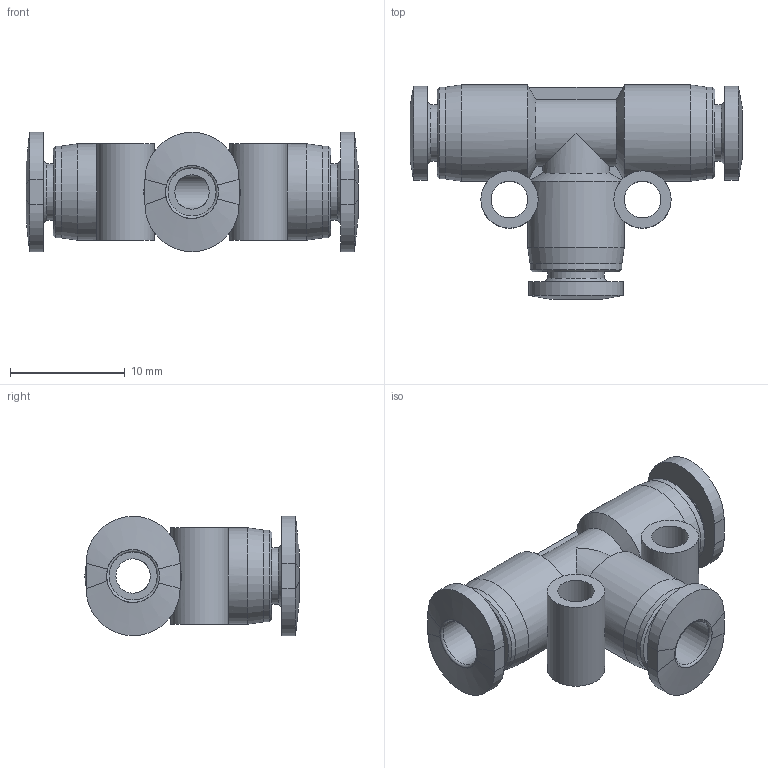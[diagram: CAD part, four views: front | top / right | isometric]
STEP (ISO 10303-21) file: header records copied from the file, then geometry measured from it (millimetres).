
FILE_DESCRIPTION((''),'2;1');
FILE_NAME('D:\INVENTOR\[New Inventor]\CDC Products 3D Ass''y\Compact\Metric\PUT-C\PUT04C.stp','2009-02-10T16:29:54',('Microsoft'),(''),'Autodesk Inventor 2008','Autodesk Inventor 2008','');
FILE_SCHEMA(('AUTOMOTIVE_DESIGN { 1 0 10303 214 1 1 1 1 }'));
Length unit declared in the file: millimetre
Products named in the file (1): PUT04C
Bounding box: 28.94 x 18.67 x 10.4 mm (x, y, z)
Volume: 1585.8 mm3; surface area: 2286 mm2
Topology: 1 solids, 1 shells, 85 faces, 196 edges, 123 vertices
Faces by surface type: cylinder 24, bspline 24, plane 21, cone 13, torus 3
Full cylindrical faces by diameter (mm): 3 x2, 3.2 x2, 4.2 x3, 4.9 x3, 5 x2, 8 x3, 8.4 x3
Entity records: 3086 total; most frequent: CARTESIAN_POINT 1370, DIRECTION 330, ORIENTED_EDGE 318, EDGE_CURVE 159, AXIS2_PLACEMENT_3D 147, EDGE_LOOP 134, VERTEX_POINT 117, FACE_OUTER_BOUND 85
